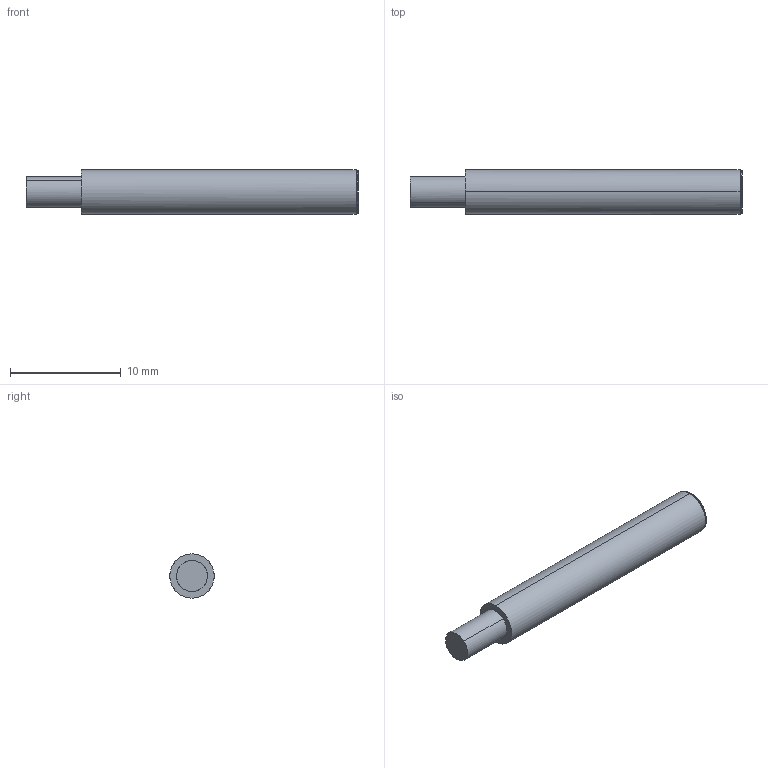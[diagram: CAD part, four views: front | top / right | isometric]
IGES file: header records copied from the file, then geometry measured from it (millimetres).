
Start section: Comment
Global section: file name: IFR 04_82_05.igs; native system:  By Spatial Corp.; preprocessor: XPlus GENERIC/IGES 3.0; author: Author; organization: Title; date: 20060330.081209; units: inch
Bounding box: 29.98 x 3.99 x 4 mm (x, y, z)
Surface area: 382.7 mm2 (no closed solid volume)
Topology: 0 solids, 0 shells, 12 faces, 44 edges, 44 vertices
Faces by surface type: bspline 12
